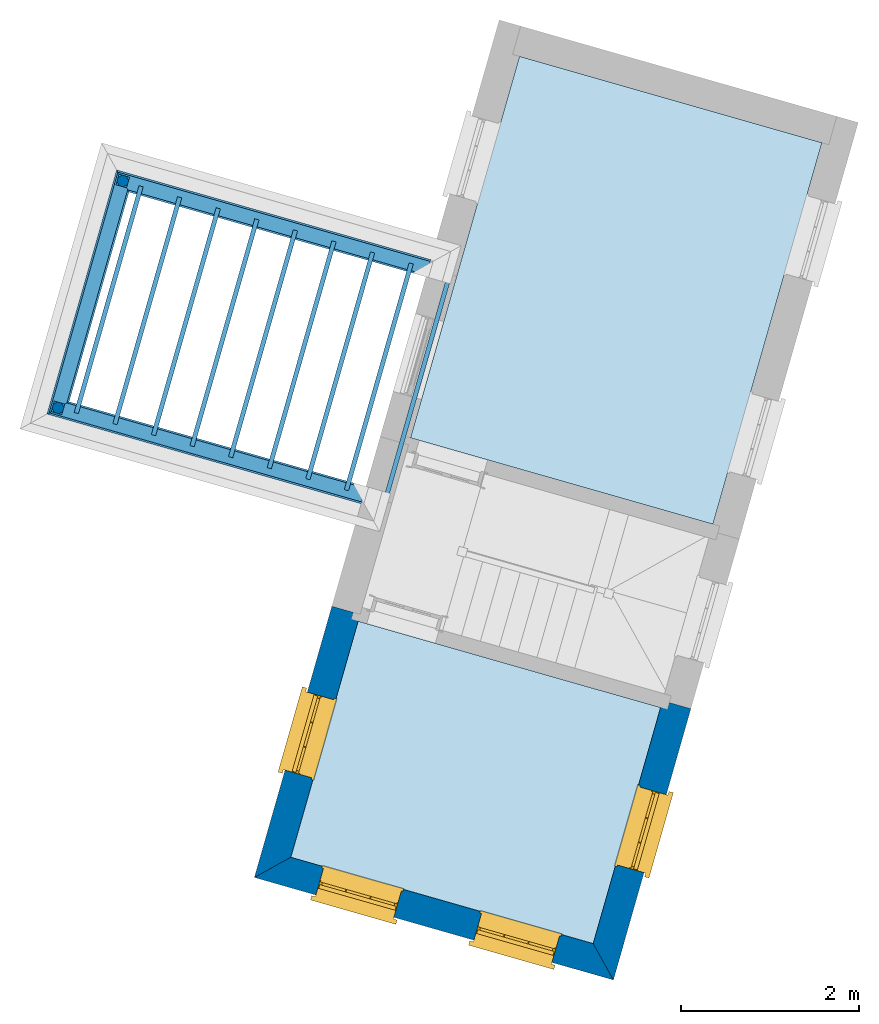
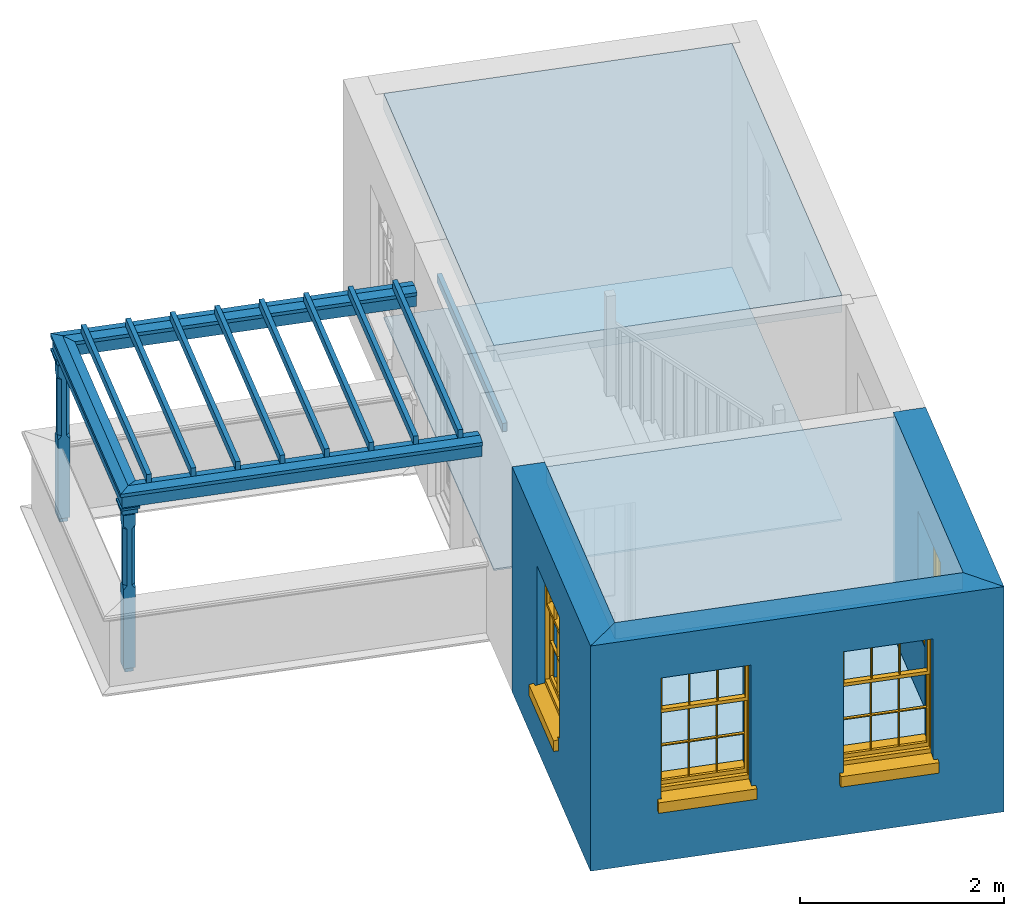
# One storey, part 1 of 6: 15 beams, 4 slabs, 4 windows, 3 walls, 2 columns, 4 openings.
"""IFC4 building model written with IfcOpenShell, lengths in metres."""

from ifc_helpers import new_model, si_unit, frame, origin, origin_with_axes, place, context, subcontext, project, spatial, polyline, outline, extrude, clip, halfspace, faceted_brep, source, transform, mapped, material, layer, layer_set, layer_usage, material_profile, profile_set, profile_usage, type_object, type_shapes, element, fill, save


model = new_model("IFC4")

# Units and contexts
model_context = context("Model", 3, world=origin_with_axes())
body_context = subcontext(model_context, "Body", "Model", "MODEL_VIEW")
ifc_project = project(units=[si_unit("PLANEANGLEUNIT", "RADIAN"), si_unit("MASSUNIT", "GRAM", prefix="KILO"), si_unit("FORCEUNIT", "NEWTON", prefix="KILO"), si_unit("LENGTHUNIT", "METRE"), si_unit("AREAUNIT", "SQUARE_METRE"), si_unit("VOLUMEUNIT", "CUBIC_METRE")], contexts=[model_context, model_context])

# Sites, building, storey
site_1_placement = place(None, origin_with_axes())
site_1 = spatial("IfcSite", under=ifc_project, at=site_1_placement, Name="Tamar")
site_2_placement = place(site_1_placement, origin_with_axes())
site_2 = spatial("IfcSite", under=site_1, at=site_2_placement, Name="Site plot-20", CompositionType="ELEMENT")
building_placement = place(None, origin_with_axes())
building = spatial("IfcBuilding", under=site_2, at=building_placement, Name="Building plot-20", CompositionType="ELEMENT")
storey_placement = place(None, frame((0.0, 0.0, 29.15), z_axis=(0.0, 0.0, 1.0), x_axis=(1.0, 0.0, 0.0)))
storey = spatial("IfcBuildingStorey", under=building, at=storey_placement, Name="plot-20 1", CompositionType="ELEMENT", Elevation=29.15)

# Columns
column_type = type_object("IfcColumnType", Name="pergola post", PredefinedType="NOTDEFINED")
shared_shape_1 = source(origin(), body_context, "Body", "Brep", [
    faceted_brep([(0.0246, -0.0615, 1.72), (0.0615, -0.0246, 1.72), (0.0615, -0.0615, 1.766667), (0.0615, -0.0246, 1.044444), (0.0246, -0.0615, 1.044444), (0.0615, 0.0246, 1.72), (0.0615, 0.0615, 1.766667), (-0.0246, -0.0615, 1.72), (-0.0615, -0.0615, 1.766667), (-0.0246, -0.0615, 1.044444), (0.0615, -0.0615, 0.997778), (0.0615, 0.0246, 1.044444), (0.0246, 0.0615, 1.72), (0.0615, 0.0615, 1.891111), (0.0615, -0.0615, 1.891111), (-0.0615, -0.0615, 1.891111), (-0.0615, -0.0246, 1.72), (-0.0615, -0.0246, 1.044444), (-0.0615, -0.0615, 0.997778), (0.0615, 0.0615, 0.997778), (0.0246, 0.0615, 1.044444), (-0.0246, 0.0615, 1.72), (-0.0615, 0.0615, 1.766667), (0.04305, 0.04305, 1.891111), (0.04305, -0.04305, 1.891111), (-0.0615, 0.0615, 1.891111), (-0.04305, -0.04305, 1.891111), (-0.0615, 0.0246, 1.72), (-0.0615, 0.0246, 1.044444), (0.0615, -0.0615, 0.053333), (-0.0615, -0.0615, 0.053333), (0.0615, 0.0615, 0.053333), (-0.0246, 0.0615, 1.044444), (-0.04305, 0.04305, 1.891111), (0.04305, 0.04305, 1.914444), (0.04305, -0.04305, 1.914444), (-0.04305, -0.04305, 1.914444), (-0.0615, 0.0615, 0.997778), (-0.0615, 0.0615, 0.053333), (-0.04305, -0.04305, 0.053333), (0.04305, -0.04305, 0.053333), (0.04305, 0.04305, 0.053333), (-0.04305, 0.04305, 1.914444), (0.07995, 0.07995, 1.914444), (0.07995, -0.07995, 1.914444), (-0.07995, -0.07995, 1.914444), (-0.04305, 0.04305, 0.053333), (-0.04305, -0.04305, 0.0), (0.04305, -0.04305, 0.0), (0.04305, 0.04305, 0.0), (-0.07995, 0.07995, 1.914444), (0.07995, 0.07995, 1.976667), (0.07995, -0.07995, 1.976667), (-0.07995, -0.07995, 1.976667), (-0.04305, 0.04305, 0.0), (-0.07995, 0.07995, 1.976667), (0.0984, 0.0984, 1.976667), (0.0984, -0.0984, 1.976667), (-0.0984, -0.0984, 1.976667), (-0.0984, 0.0984, 1.976667), (0.0984, 0.0984, 2.0), (0.0984, -0.0984, 2.0), (-0.0984, -0.0984, 2.0), (-0.0984, 0.0984, 2.0)], [[[0, 1, 2]], [[3, 1, 0, 4]], [[1, 5, 6, 2]], [[7, 0, 2, 8]], [[4, 0, 7, 9]], [[3, 4, 10]], [[1, 3, 11, 5]], [[5, 12, 6]], [[13, 14, 2, 6]], [[15, 8, 2, 14]], [[8, 16, 7]], [[9, 7, 16, 17]], [[9, 18, 10, 4]], [[3, 10, 19, 11]], [[20, 12, 5, 11]], [[21, 22, 6, 12]], [[14, 13, 23, 24]], [[13, 6, 22, 25]], [[25, 22, 8, 15]], [[26, 15, 14, 24]], [[16, 8, 22, 27]], [[27, 28, 17, 16]], [[17, 18, 9]], [[29, 10, 18, 30]], [[31, 19, 10, 29]], [[20, 11, 19]], [[12, 20, 32, 21]], [[21, 27, 22]], [[33, 23, 13, 25]], [[23, 34, 35, 24]], [[26, 33, 25, 15]], [[36, 26, 24, 35]], [[28, 27, 21, 32]], [[17, 28, 37, 18]], [[38, 30, 18, 37]], [[29, 30, 39, 40]], [[31, 38, 37, 19]], [[40, 41, 31, 29]], [[32, 20, 19, 37]], [[33, 42, 34, 23]], [[43, 44, 35, 34]], [[42, 33, 26, 36]], [[36, 35, 44, 45]], [[28, 32, 37]], [[46, 39, 30, 38]], [[39, 47, 48, 40]], [[46, 38, 31, 41]], [[49, 41, 40, 48]], [[43, 34, 42, 50]], [[43, 51, 52, 44]], [[45, 50, 42, 36]], [[53, 45, 44, 52]], [[46, 54, 47, 39]], [[54, 46, 41, 49]], [[50, 55, 51, 43]], [[56, 57, 52, 51]], [[55, 50, 45, 53]], [[53, 52, 57, 58]], [[56, 51, 55, 59]], [[56, 60, 61, 57]], [[58, 59, 55, 53]], [[62, 58, 57, 61]], [[59, 63, 60, 56]], [[63, 62, 61, 60]], [[58, 62, 63, 59]], [[47, 54, 49, 48]]]),
])
type_shapes(column_type, [shared_shape_1])
for number, where, z_axis, x_axis, name in (
    (1, (274.459670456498, 292.387610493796, 0.0), (0.0, 0.0, 1.0), (-0.274568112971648, -0.961567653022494, 0.0), "pergola post"),
    (2, (273.733334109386, 289.843900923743, 0.0), (0.0, 0.0, 1.0), (0.961567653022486, -0.274568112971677, 0.0), "pergola post"),
):
    element("IfcColumn", number, at=place(storey_placement, frame(where, z_axis=z_axis, x_axis=x_axis)), inside=storey, type_object=column_type, Name=name, context=body_context, shape_type="MappedRepresentation", body=[
        mapped(shared_shape_1, transform((0.0, 0.0, 0.0), scale=1.0)),
    ])

# Beams
ifc_material_profile_1 = material_profile(None, outline(polyline([(-0.08, -0.7), (0.08, -0.7), (0.08, -0.56), (-0.08, -0.56), (-0.08, -0.7)])))
ifc_profile_set_1 = profile_set([ifc_material_profile_1])
ifc_profile_usage_1 = profile_usage(ifc_profile_set_1)
beam_type_1 = type_object("IfcBeamType", Name="pergola beam_0", PredefinedType="NOTDEFINED", material=ifc_profile_set_1)
beam_1_placement = place(storey_placement, frame((273.498102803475, 292.662178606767, 2.7), z_axis=(0.961567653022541, -0.274568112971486, 0.0), x_axis=(0.274568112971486, 0.961567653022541, 0.0)))
element("IfcBeam", 3, at=beam_1_placement, inside=storey, type_object=beam_type_1, material=ifc_profile_usage_1, Name="pergola beam_0", context=body_context, shape_type="Clipping", body=[
    clip(clip(extrude(outline(polyline([(-0.08, -0.7), (0.08, -0.7), (0.08, -0.56), (-0.08, -0.56), (-0.08, -0.7)])), origin_with_axes(), (0.0, 0.0, 1.0), 5.5632312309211), halfspace(frame((0.0, 0.0, 4.5632312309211), z_axis=(2.12550497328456e-14, 0.0, -1.0), x_axis=(0.0, 1.0, 0.0)), True)), halfspace(frame((0.0, 0.0, 1.0), z_axis=(-0.707106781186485, 0.0, -0.70710678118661), x_axis=(0.0, 1.0, 0.0)), False)),
])
ifc_profile_usage_2 = profile_usage(ifc_profile_set_1)
beam_2_placement = place(storey_placement, frame((273.458765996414, 288.88233327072, 2.7), z_axis=(0.274568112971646, 0.961567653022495, 0.0), x_axis=(-0.961567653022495, 0.274568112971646, 0.0)))
element("IfcBeam", 4, at=beam_2_placement, inside=storey, type_object=beam_type_1, material=ifc_profile_usage_2, Name="pergola beam_0", context=body_context, shape_type="Clipping", body=[
    clip(clip(extrude(outline(polyline([(-0.08, -0.7), (0.08, -0.7), (0.08, -0.56), (-0.08, -0.56), (-0.08, -0.7)])), origin_with_axes(), (0.0, 0.0, 1.0), 4.64537764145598), halfspace(frame((0.0, 0.0, 3.64537764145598), z_axis=(0.707106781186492, 0.0, -0.707106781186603), x_axis=(0.0, 1.0, 0.0)), True)), halfspace(frame((0.0, 0.0, 1.0), z_axis=(-0.707106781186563, 0.0, -0.707106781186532), x_axis=(0.0, 1.0, 0.0)), False)),
])
ifc_profile_usage_3 = profile_usage(ifc_profile_set_1)
beam_3_placement = place(storey_placement, frame((278.121189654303, 288.590983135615, 2.7), z_axis=(-0.961567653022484, 0.274568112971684, 0.0), x_axis=(-0.274568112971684, -0.961567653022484, 0.0)))
element("IfcBeam", 5, at=beam_3_placement, inside=storey, type_object=beam_type_1, material=ifc_profile_usage_3, Name="pergola beam_0", context=body_context, shape_type="Clipping", body=[
    clip(clip(extrude(outline(polyline([(-0.08, -0.7), (0.08, -0.7), (0.08, -0.56), (-0.08, -0.56), (-0.08, -0.7)])), origin_with_axes(), (0.0, 0.0, 1.0), 5.56323123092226), halfspace(frame((0.0, 0.0, 4.56323123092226), z_axis=(0.707106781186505, 0.0, -0.70710678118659), x_axis=(0.0, 1.0, 0.0)), True)), halfspace(frame((0.0, 0.0, 1.0), z_axis=(-5.39030285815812e-15, 0.0, -1.0), x_axis=(0.0, 1.0, 0.0)), False)),
])
ifc_material_profile_2 = material_profile(None, outline(polyline([(0.0, -0.5), (-0.1, -0.52), (-0.1, -0.56), (0.1, -0.56), (0.1, -0.52), (0.0, -0.5)])))
ifc_profile_set_2 = profile_set([ifc_material_profile_2])
ifc_profile_usage_4 = profile_usage(ifc_profile_set_2)
beam_type_2 = type_object("IfcBeamType", Name="pergola beam_1", PredefinedType="NOTDEFINED", material=ifc_profile_set_2)
beam_4_placement = place(storey_placement, frame((273.498102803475, 292.662178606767, 2.7), z_axis=(0.961567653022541, -0.274568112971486, 0.0), x_axis=(0.274568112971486, 0.961567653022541, 0.0)))
element("IfcBeam", 6, at=beam_4_placement, inside=storey, type_object=beam_type_2, material=ifc_profile_usage_4, Name="pergola beam_1", context=body_context, shape_type="Clipping", body=[
    clip(clip(extrude(outline(polyline([(0.0, -0.5), (-0.1, -0.52), (-0.1, -0.56), (0.1, -0.56), (0.1, -0.52), (0.0, -0.5)])), origin_with_axes(), (0.0, 0.0, 1.0), 5.5632312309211), halfspace(frame((0.0, 0.0, 4.5632312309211), z_axis=(2.12550497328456e-14, 0.0, -1.0), x_axis=(0.0, 1.0, 0.0)), True)), halfspace(frame((0.0, 0.0, 1.0), z_axis=(-0.707106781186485, 0.0, -0.70710678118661), x_axis=(0.0, 1.0, 0.0)), False)),
])
ifc_profile_usage_5 = profile_usage(ifc_profile_set_2)
beam_5_placement = place(storey_placement, frame((273.458765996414, 288.88233327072, 2.7), z_axis=(0.274568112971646, 0.961567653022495, 0.0), x_axis=(-0.961567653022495, 0.274568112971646, 0.0)))
element("IfcBeam", 7, at=beam_5_placement, inside=storey, type_object=beam_type_2, material=ifc_profile_usage_5, Name="pergola beam_1", context=body_context, shape_type="Clipping", body=[
    clip(clip(extrude(outline(polyline([(0.0, -0.5), (-0.1, -0.52), (-0.1, -0.56), (0.1, -0.56), (0.1, -0.52), (0.0, -0.5)])), origin_with_axes(), (0.0, 0.0, 1.0), 4.64537764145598), halfspace(frame((0.0, 0.0, 3.64537764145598), z_axis=(0.707106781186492, 0.0, -0.707106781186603), x_axis=(0.0, 1.0, 0.0)), True)), halfspace(frame((0.0, 0.0, 1.0), z_axis=(-0.707106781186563, 0.0, -0.707106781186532), x_axis=(0.0, 1.0, 0.0)), False)),
])
ifc_profile_usage_6 = profile_usage(ifc_profile_set_2)
beam_6_placement = place(storey_placement, frame((278.121189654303, 288.590983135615, 2.7), z_axis=(-0.961567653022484, 0.274568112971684, 0.0), x_axis=(-0.274568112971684, -0.961567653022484, 0.0)))
element("IfcBeam", 8, at=beam_6_placement, inside=storey, type_object=beam_type_2, material=ifc_profile_usage_6, Name="pergola beam_1", context=body_context, shape_type="Clipping", body=[
    clip(clip(extrude(outline(polyline([(0.0, -0.5), (-0.1, -0.52), (-0.1, -0.56), (0.1, -0.56), (0.1, -0.52), (0.0, -0.5)])), origin_with_axes(), (0.0, 0.0, 1.0), 5.56323123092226), halfspace(frame((0.0, 0.0, 4.56323123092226), z_axis=(0.707106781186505, 0.0, -0.70710678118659), x_axis=(0.0, 1.0, 0.0)), True)), halfspace(frame((0.0, 0.0, 1.0), z_axis=(-5.39030285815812e-15, 0.0, -1.0), x_axis=(0.0, 1.0, 0.0)), False)),
])
for number, where, name in (
    (9, (278.150389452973, 291.333754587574, 2.2), "My Beam"),
    (10, (277.717684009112, 291.457310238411, 2.2), "My Beam"),
):
    element("IfcBeam", number, at=place(storey_placement, frame(where)), inside=storey, Name=name, ObjectType="Beam", context=body_context, shape_type="SweptSolid", body=[
        extrude(outline(polyline([(0.0, 0.0), (-0.0480783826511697, 0.0137284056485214), (-0.774414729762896, -2.52998116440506), (-0.726336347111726, -2.54370957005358), (0.0, 0.0)])), origin_with_axes(), (0.0, 0.0, 1.0), 0.1),
    ])
for number, where, name in (
    (11, (277.284978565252, 291.580865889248, 2.2), "My Beam"),
    (12, (276.852273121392, 291.704421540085, 2.2), "My Beam"),
):
    element("IfcBeam", number, at=place(storey_placement, frame(where)), inside=storey, Name=name, ObjectType="Beam", context=body_context, shape_type="SweptSolid", body=[
        extrude(outline(polyline([(0.0, 0.0), (-0.0480783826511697, 0.0137284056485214), (-0.774414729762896, -2.52998116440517), (-0.726336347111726, -2.54370957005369), (0.0, 0.0)])), origin_with_axes(), (0.0, 0.0, 1.0), 0.1),
    ])
beam_7_placement = place(storey_placement, frame((276.419567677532, 291.827977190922, 2.2)))
element("IfcBeam", 13, at=beam_7_placement, inside=storey, Name="My Beam", ObjectType="Beam", context=body_context, shape_type="SweptSolid", body=[
    extrude(outline(polyline([(0.0, 0.0), (-0.0480783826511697, 0.0137284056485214), (-0.774414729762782, -2.52998116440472), (-0.726336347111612, -2.54370957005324), (0.0, 0.0)])), origin_with_axes(), (0.0, 0.0, 1.0), 0.1),
])
beam_8_placement = place(storey_placement, frame((275.986862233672, 291.95153284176, 2.2)))
element("IfcBeam", 14, at=beam_8_placement, inside=storey, Name="My Beam", ObjectType="Beam", context=body_context, shape_type="SweptSolid", body=[
    extrude(outline(polyline([(0.0, 0.0), (-0.0480783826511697, 0.0137284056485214), (-0.774414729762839, -2.52998116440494), (-0.726336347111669, -2.54370957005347), (0.0, 0.0)])), origin_with_axes(), (0.0, 0.0, 1.0), 0.1),
])
beam_9_placement = place(storey_placement, frame((275.554156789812, 292.075088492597, 2.2)))
element("IfcBeam", 15, at=beam_9_placement, inside=storey, Name="My Beam", ObjectType="Beam", context=body_context, shape_type="SweptSolid", body=[
    extrude(outline(polyline([(0.0, 0.0), (-0.0480783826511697, 0.0137284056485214), (-0.774414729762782, -2.52998116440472), (-0.726336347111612, -2.54370957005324), (0.0, 0.0)])), origin_with_axes(), (0.0, 0.0, 1.0), 0.1),
])
for number, where, name in (
    (16, (275.121451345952, 292.198644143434, 2.2), "My Beam"),
    (17, (274.688745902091, 292.322199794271, 2.2), "My Beam"),
):
    element("IfcBeam", number, at=place(storey_placement, frame(where)), inside=storey, Name=name, ObjectType="Beam", context=body_context, shape_type="SweptSolid", body=[
        extrude(outline(polyline([(0.0, 0.0), (-0.0480783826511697, 0.0137284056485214), (-0.774414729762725, -2.52998116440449), (-0.726336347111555, -2.54370957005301), (0.0, 0.0)])), origin_with_axes(), (0.0, 0.0, 1.0), 0.1),
    ])

# Slabs
slab_1_placement = place(storey_placement, frame((277.099083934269, 287.451652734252, 2.5)))
element("IfcSlab", 18, at=slab_1_placement, inside=storey, Name="My Slab", ObjectType="Slab", PredefinedType="FLOOR", context=body_context, shape_type="SweptSolid", body=[
    extrude(outline(polyline([(0.0, 0.0), (-0.755903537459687, -2.64725711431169), (2.63532323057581, -3.61559536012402), (3.39122676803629, -0.968338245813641), (0.0, 0.0)])), origin_with_axes(), (0.0, 0.0, 1.0), 0.2),
])
slab_2_placement = place(storey_placement, frame((277.099083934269, 287.451652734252, 0.0)))
element("IfcSlab", 19, at=slab_2_placement, inside=storey, Name="My Slab", ObjectType="Slab", PredefinedType="FLOOR", context=body_context, shape_type="SweptSolid", body=[
    extrude(outline(polyline([(0.0, 0.0), (-0.755903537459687, -2.64725711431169), (2.63532323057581, -3.61559536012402), (3.39122676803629, -0.968338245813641), (0.0, 0.0)])), origin_with_axes(), (0.0, 0.0, 1.0), 0.02),
])
slab_3_placement = place(storey_placement, frame((282.298873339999, 292.817099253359, 2.5)))
element("IfcSlab", 20, at=slab_3_placement, inside=storey, Name="My Slab", ObjectType="Slab", PredefinedType="FLOOR", context=body_context, shape_type="SweptSolid", body=[
    extrude(outline(polyline([(0.0, 0.0), (-3.39122676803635, 0.968338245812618), (-4.61271295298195, -3.30944037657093), (-1.22148618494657, -4.27777862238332), (0.0, 0.0)])), origin_with_axes(), (0.0, 0.0, 1.0), 0.2),
])
slab_4_placement = place(storey_placement, frame((282.298873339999, 292.817099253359, 0.0)))
element("IfcSlab", 21, at=slab_4_placement, inside=storey, Name="My Slab", ObjectType="Slab", PredefinedType="FLOOR", context=body_context, shape_type="SweptSolid", body=[
    extrude(outline(polyline([(0.0, 0.0), (-3.39122676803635, 0.968338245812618), (-4.61271295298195, -3.30944037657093), (-1.22148618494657, -4.27777862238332), (0.0, 0.0)])), origin_with_axes(), (0.0, 0.0, 1.0), 0.02),
])

# Wall, opening, window
ifc_material = material(Name="Masonry")
ifc_layer = layer(ifc_material, 0.33, ventilated=False)
ifc_layer_set = layer_set([ifc_layer], Name="exterior_0.08_0.25")
ifc_layer_usage = layer_usage(ifc_layer_set, "AXIS2", "POSITIVE", -0.25)
wall_type = type_object("IfcWallType", Name="exterior_0.08_0.25", PredefinedType="SOLIDWALL", material=ifc_layer_set)
wall_1_placement = place(storey_placement, frame((277.044123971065, 287.550543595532, 0.0), z_axis=(0.0, 0.0, 1.0), x_axis=(-0.274568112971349, -0.96156765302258, 0.0)))
wall_1 = element("IfcWall", 22, at=wall_1_placement, inside=storey, type_object=wall_type, material=ifc_layer_usage, Name="exterior", context=body_context, shape_type="SweptSolid", body=[
    extrude(outline(polyline([(3.14623474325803e-14, 0.079999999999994), (-1.13005395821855e-13, -0.250000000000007), (3.16306381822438, -0.249999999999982), (2.8330638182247, 0.079999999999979), (3.14623474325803e-14, 0.079999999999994)])), origin_with_axes(), (0.0, 0.0, 1.0), 2.7),
])
opening_1_placement = place(wall_1_placement, frame((1.00153190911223, 0.0, 0.75)))
opening_1 = element("IfcOpeningElement", 23, at=opening_1_placement, cuts=wall_1, Name="My Opening", ObjectType="Opening", context=body_context, shape_type="SweptSolid", body=[
    extrude(outline(polyline([(0.0, -0.269999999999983), (0.909999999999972, -0.270000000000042), (0.909999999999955, 1.10000000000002), (-1.66533453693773e-14, 1.10000000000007), (0.0, -0.269999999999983)])), origin_with_axes(), (0.0, 0.0, 1.0), 1.445),
])
window_type = type_object("IfcWindowType", Name="sash_shorter", PartitioningType="DOUBLE_PANEL_HORIZONTAL", PredefinedType="NOTDEFINED")
shared_shape_2 = source(origin(), body_context, "Body", "Brep", [
    faceted_brep([(0.876875, 0.145, 0.999097), (0.876875, 0.145, 1.411875), (0.9, 0.145, 1.435), (0.033125, 0.145, 1.411875), (0.033125, 0.145, 0.999097), (0.01, 0.145, 1.435), (0.033125, 0.115, 1.411875), (0.01, 0.115, 1.435), (0.033125, 0.115, 0.999097), (0.876875, 0.115, 1.411875), (0.876875, 0.115, 0.999097), (0.9, 0.115, 1.435), (0.033125, 0.145, 0.960972), (0.01, 0.145, 0.960972), (0.033125, 0.145, 0.548195), (0.876875, 0.145, 0.960972), (0.876875, 0.145, 0.548195), (0.9, 0.145, 0.960972), (0.876875, 0.145, 0.538195), (0.876875, 0.145, 0.125417), (0.9, 0.145, 0.077167), (0.033125, 0.145, 0.125417), (0.033125, 0.145, 0.538195), (0.01, 0.145, 0.077167), (0.9, 0.115, 0.960972), (0.01, 0.115, 0.960972), (-0.0425, 0.0, 0.01), (-0.0425, -0.05, 0.001667), (0.0, 0.0, 0.01), (0.9525, 0.0, 0.01), (0.91, 0.0, 0.01), (0.9525, -0.05, 0.001667), (-0.02, 0.33, 0.077167), (0.0, 0.33, 0.077167), (-0.02, 0.36, 0.077167), (0.0, 0.19, 0.077167), (0.01, 0.19, 0.077167), (0.91, 0.19, 0.077167), (0.91, 0.33, 0.077167), (0.9, 0.19, 0.077167), (0.93, 0.33, 0.077167), (0.93, 0.36, 0.077167), (0.01, 0.145, 0.999097), (0.01, 0.175, 0.999097), (0.9, 0.145, 0.999097), (0.9, 0.175, 0.999097), (0.876875, 0.175, 0.125417), (0.876875, 0.175, 0.538195), (0.9, 0.175, 0.077167), (0.876875, 0.175, 0.548195), (0.876875, 0.175, 0.960972), (0.033125, 0.175, 0.125417), (0.01, 0.175, 0.077167), (0.033125, 0.175, 0.538195), (0.033125, 0.175, 0.960972), (0.033125, 0.175, 0.548195), (-0.02, 0.33, 0.052167), (-0.02, 0.36, 0.052167), (0.93, 0.36, 0.052167), (0.93, 0.33, 0.052167), (0.91, 0.33, 0.052167), (0.0, 0.33, 0.052167), (0.91, 0.1, 0.026667), (0.0, 0.1, 0.026667), (-0.0425, -0.05, -0.123333), (0.9525, -0.05, -0.123333), (-0.0425, 0.0, -0.123333), (0.9525, 0.0, -0.123333), (0.01, 0.19, 1.435), (0.9, 0.19, 1.435), (0.0, 0.19, 1.445), (0.91, 0.19, 1.445), (0.01, 0.1, 0.077167), (0.9, 0.1, 0.077167), (0.592292, 0.145, 0.125417), (0.592292, 0.175, 0.125417), (0.317708, 0.175, 0.125417), (0.317708, 0.145, 0.125417), (0.592292, 0.145, 0.548195), (0.317708, 0.145, 0.548195), (0.317708, 0.145, 0.538195), (0.592292, 0.145, 0.538195), (0.592292, 0.175, 0.548195), (0.317708, 0.175, 0.548195), (0.602292, 0.175, 0.548195), (0.602292, 0.145, 0.548195), (0.317708, 0.175, 0.538195), (0.307708, 0.175, 0.125417), (0.307708, 0.175, 0.538195), (0.602292, 0.175, 0.538195), (0.602292, 0.175, 0.125417), (0.592292, 0.175, 0.538195), (0.307708, 0.175, 0.548195), (0.317708, 0.175, 0.960972), (0.307708, 0.175, 0.960972), (0.602292, 0.175, 0.960972), (0.592292, 0.175, 0.960972), (0.307708, 0.145, 0.538195), (0.307708, 0.145, 0.125417), (0.307708, 0.145, 0.548195), (0.307708, 0.145, 0.960972), (0.592292, 0.145, 0.960972), (0.317708, 0.145, 0.960972), (0.602292, 0.145, 0.960972), (0.602292, 0.145, 0.538195), (0.602292, 0.145, 0.125417), (0.317708, 0.115, 1.411875), (0.307708, 0.115, 1.411875), (0.307708, 0.115, 0.999097), (0.317708, 0.115, 0.999097), (0.602292, 0.115, 1.411875), (0.592292, 0.115, 1.411875), (0.592292, 0.115, 0.999097), (0.602292, 0.115, 0.999097), (0.317708, 0.145, 0.999097), (0.307708, 0.145, 0.999097), (0.307708, 0.145, 1.411875), (0.317708, 0.145, 1.411875), (0.602292, 0.145, 0.999097), (0.592292, 0.145, 0.999097), (0.592292, 0.145, 1.411875), (0.602292, 0.145, 1.411875), (0.91, 0.1, 1.445), (0.9, 0.1, 1.435), (0.01, 0.1, 1.435), (0.0, 0.1, 1.445), (0.91, 0.0, 0.0), (0.0, 0.0, 0.0), (0.91, 0.33, 0.0), (0.0, 0.33, 0.0)], [[[0, 1, 2]], [[3, 4, 5]], [[6, 7, 8]], [[9, 10, 11]], [[12, 13, 14]], [[15, 16, 17]], [[18, 19, 20]], [[21, 22, 23]], [[24, 15, 17]], [[13, 12, 25]], [[26, 27, 28]], [[29, 30, 31]], [[32, 33, 34]], [[35, 36, 33]], [[37, 38, 39]], [[40, 41, 38]], [[42, 4, 43]], [[44, 45, 0]], [[46, 47, 48]], [[49, 50, 45]], [[51, 52, 53]], [[54, 55, 43]], [[38, 33, 36, 39]], [[41, 34, 33, 38]], [[56, 32, 34, 57]], [[57, 34, 41, 58]], [[58, 41, 40, 59]], [[57, 58, 60, 61]], [[52, 48, 39, 36]], [[62, 63, 28, 30]], [[27, 31, 30, 28]], [[27, 64, 65, 31]], [[66, 67, 65, 64]], [[2, 5, 68, 69]], [[68, 70, 71, 69]], [[20, 23, 72, 73]], [[73, 72, 63, 62]], [[74, 75, 76, 77]], [[78, 79, 80, 81]], [[78, 82, 83, 79]], [[16, 49, 84, 85]], [[86, 76, 87, 88]], [[89, 90, 75, 91]], [[92, 88, 53, 55]], [[82, 91, 86, 83]], [[93, 83, 92, 94]], [[95, 84, 82, 96]], [[89, 84, 49, 47]], [[97, 88, 87, 98]], [[22, 53, 88, 97]], [[81, 91, 75, 74]], [[80, 86, 91, 81]], [[77, 76, 86, 80]], [[99, 92, 55, 14]], [[100, 94, 92, 99]], [[101, 96, 82, 78]], [[79, 83, 93, 102]], [[85, 84, 95, 103]], [[104, 89, 47, 18]], [[105, 90, 89, 104]], [[104, 18, 16, 85]], [[80, 97, 98, 77]], [[104, 81, 74, 105]], [[103, 101, 78, 85]], [[99, 14, 22, 97]], [[102, 100, 99, 79]], [[106, 107, 108, 109]], [[110, 111, 112, 113]], [[114, 115, 116, 117]], [[118, 119, 120, 121]], [[107, 116, 115, 108]], [[111, 120, 119, 112]], [[109, 114, 117, 106]], [[113, 118, 121, 110]], [[85, 78, 81, 104]], [[84, 89, 91, 82]], [[83, 86, 88, 92]], [[79, 99, 97, 80]], [[109, 112, 119, 114]], [[102, 93, 96, 101]], [[106, 117, 120, 111]], [[98, 87, 51, 21]], [[6, 3, 116, 107]], [[110, 121, 1, 9]], [[19, 46, 90, 105]], [[26, 66, 64, 27]], [[29, 31, 65, 67]], [[25, 24, 112, 109]], [[11, 7, 106, 111]], [[75, 48, 52, 76]], [[43, 45, 96, 93]], [[45, 43, 114, 119]], [[5, 2, 120, 117]], [[24, 25, 102, 101]], [[42, 5, 4]], [[2, 44, 0]], [[49, 45, 48, 47]], [[52, 43, 55, 53]], [[14, 13, 23, 22]], [[20, 17, 16, 18]], [[24, 11, 10]], [[25, 8, 7]], [[8, 4, 3, 6]], [[9, 1, 0, 10]], [[15, 50, 49, 16]], [[18, 47, 46, 19]], [[21, 51, 53, 22]], [[14, 55, 54, 12]], [[44, 2, 69, 45]], [[68, 5, 42, 43]], [[36, 35, 70, 68]], [[39, 69, 71, 37]], [[62, 122, 123, 73]], [[63, 72, 124, 125]], [[8, 108, 115, 4]], [[113, 10, 0, 118]], [[94, 100, 12, 54]], [[17, 20, 73, 24]], [[72, 23, 13, 25]], [[52, 36, 68, 43]], [[69, 39, 48, 45]], [[11, 24, 73, 123]], [[7, 124, 72, 25]], [[23, 77, 98]], [[98, 21, 23]], [[105, 74, 20]], [[20, 19, 105]], [[20, 74, 77, 23]], [[113, 112, 24]], [[24, 10, 113]], [[25, 109, 108]], [[108, 8, 25]], [[110, 9, 11]], [[11, 111, 110]], [[7, 6, 107]], [[107, 106, 7]], [[5, 117, 116]], [[116, 3, 5]], [[121, 120, 2]], [[2, 1, 121]], [[11, 123, 124, 7]], [[122, 125, 124, 123]], [[43, 93, 94]], [[94, 54, 43]], [[96, 45, 95]], [[50, 95, 45]], [[15, 103, 95, 50]], [[48, 75, 90]], [[90, 46, 48]], [[87, 76, 52]], [[52, 51, 87]], [[103, 15, 24]], [[24, 101, 103]], [[100, 102, 25]], [[25, 12, 100]], [[115, 114, 43]], [[43, 4, 115]], [[118, 0, 45]], [[45, 119, 118]], [[71, 70, 125, 122]], [[70, 35, 63, 125]], [[122, 62, 37, 71]], [[126, 67, 66, 127]], [[60, 58, 59]], [[38, 60, 59, 40]], [[61, 56, 57]], [[32, 56, 61, 33]], [[61, 60, 128, 129]], [[62, 60, 38, 37]], [[126, 128, 60, 62]], [[33, 61, 63, 35]], [[61, 129, 127, 63]], [[128, 126, 127, 129]], [[28, 127, 66, 26]], [[63, 127, 28]], [[29, 67, 126, 30]], [[30, 126, 62]]]),
])
type_shapes(window_type, [shared_shape_2])
window_1_placement = place(storey_placement, frame((276.509511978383, 286.661636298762, 0.75), z_axis=(0.0, 0.0, 1.0), x_axis=(-0.249856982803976, -0.875026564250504, 0.0)))
window_1 = element("IfcWindow", 24, at=window_1_placement, inside=storey, type_object=window_type, Name="bedroom outside window", OverallHeight=1.445, OverallWidth=0.91, context=body_context, shape_type="MappedRepresentation", body=[
    mapped(shared_shape_2, transform((0.0, 0.0, 0.0), scale=1.0)),
])
fill(opening_1, window_1)

# Wall, openings, windows
wall_2_placement = place(storey_placement, frame((276.24428953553, 284.749435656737, 0.0), z_axis=(0.0, 0.0, 1.0), x_axis=(0.961567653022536, -0.274568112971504, 0.0)))
wall_2 = element("IfcWall", 25, at=wall_2_placement, inside=storey, type_object=wall_type, material=ifc_layer_usage, Name="exterior", context=body_context, shape_type="SweptSolid", body=[
    extrude(outline(polyline([(0.0799999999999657, 0.0799999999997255), (-0.24999999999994, -0.250000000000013), (3.93676876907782, -0.25000000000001), (3.60676876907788, 0.0799999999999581), (0.0799999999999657, 0.0799999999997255)])), origin_with_axes(), (0.0, 0.0, 1.0), 2.7),
])
opening_2_placement = place(wall_2_placement, frame((0.466692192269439, 0.0, 0.75)))
opening_2 = element("IfcOpeningElement", 26, at=opening_2_placement, cuts=wall_2, Name="My Opening", ObjectType="Opening", context=body_context, shape_type="SweptSolid", body=[
    extrude(outline(polyline([(0.0, -0.270000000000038), (0.910000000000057, -0.270000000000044), (0.910000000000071, 1.09999999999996), (1.36557432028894e-14, 1.09999999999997), (0.0, -0.270000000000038)])), origin_with_axes(), (0.0, 0.0, 1.0), 1.445),
])
opening_3_placement = place(wall_2_placement, frame((2.31007657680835, 0.0, 0.75)))
opening_3 = element("IfcOpeningElement", 27, at=opening_3_placement, cuts=wall_2, Name="My Opening", ObjectType="Opening", context=body_context, shape_type="SweptSolid", body=[
    extrude(outline(polyline([(0.0, -0.270000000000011), (0.910000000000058, -0.270000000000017), (0.910000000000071, 1.09999999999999), (1.37667655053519e-14, 1.1), (0.0, -0.270000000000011)])), origin_with_axes(), (0.0, 0.0, 1.0), 1.445),
])
window_2_placement = place(storey_placement, frame((276.618912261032, 284.361673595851, 0.75), z_axis=(0.0, 0.0, 1.0), x_axis=(0.875026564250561, -0.24985698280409, 0.0)))
window_2 = element("IfcWindow", 28, at=window_2_placement, inside=storey, type_object=window_type, Name="bedroom outside window", OverallHeight=1.445, OverallWidth=0.91, context=body_context, shape_type="MappedRepresentation", body=[
    mapped(shared_shape_2, transform((0.0, 0.0, 0.0), scale=1.0)),
])
fill(opening_2, window_2)
window_3_placement = place(storey_placement, frame((278.391451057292, 283.855539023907, 0.75), z_axis=(0.0, 0.0, 1.0), x_axis=(0.875026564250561, -0.24985698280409, 0.0)))
window_3 = element("IfcWindow", 29, at=window_3_placement, inside=storey, type_object=window_type, Name="bedroom outside window", OverallHeight=1.445, OverallWidth=0.91, context=body_context, shape_type="MappedRepresentation", body=[
    mapped(shared_shape_2, transform((0.0, 0.0, 0.0), scale=1.0)),
])
fill(opening_3, window_3)

# Wall, opening, window
wall_3_placement = place(storey_placement, frame((279.789367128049, 283.737166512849, 0.0), z_axis=(0.0, 0.0, 1.0), x_axis=(0.274568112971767, 0.961567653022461, 0.0)))
wall_3 = element("IfcWall", 30, at=wall_3_placement, inside=storey, type_object=wall_type, material=ifc_layer_usage, Name="exterior", context=body_context, shape_type="SweptSolid", body=[
    extrude(outline(polyline([(0.0799999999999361, 0.0799999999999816), (-0.249999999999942, -0.250000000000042), (2.9130638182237, -0.250000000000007), (2.9130638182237, 0.0799999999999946), (0.0799999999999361, 0.0799999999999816)])), origin_with_axes(), (0.0, 0.0, 1.0), 2.7),
])
opening_4_placement = place(wall_3_placement, frame((1.00153190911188, 0.0, 0.75)))
opening_4 = element("IfcOpeningElement", 31, at=opening_4_placement, cuts=wall_3, Name="My Opening", ObjectType="Opening", context=body_context, shape_type="SweptSolid", body=[
    extrude(outline(polyline([(0.0, -0.269999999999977), (0.909999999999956, -0.269999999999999), (0.909999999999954, 1.09999999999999), (-1.77635683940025e-15, 1.10000000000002), (0.0, -0.269999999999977)])), origin_with_axes(), (0.0, 0.0, 1.0), 1.445),
])
window_4_placement = place(storey_placement, frame((280.323979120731, 284.626073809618, 0.75), z_axis=(0.0, 0.0, 1.0), x_axis=(0.249856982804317, 0.87502656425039, 0.0)))
window_4 = element("IfcWindow", 32, at=window_4_placement, inside=storey, type_object=window_type, Name="bedroom outside window", OverallHeight=1.445, OverallWidth=0.91, context=body_context, shape_type="MappedRepresentation", body=[
    mapped(shared_shape_2, transform((0.0, 0.0, 0.0), scale=1.0)),
])
fill(opening_4, window_4)

save(model, "model.ifc")
